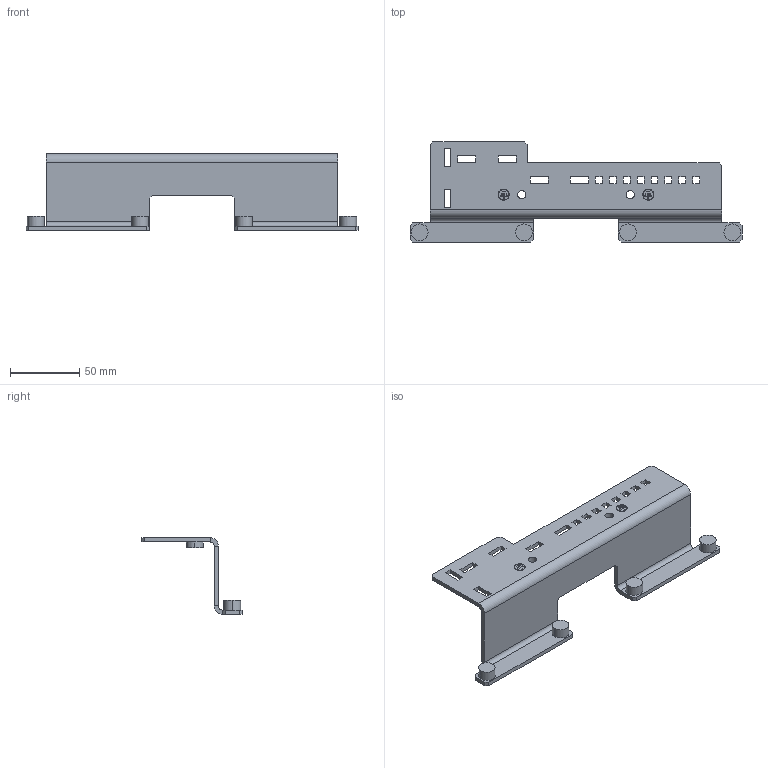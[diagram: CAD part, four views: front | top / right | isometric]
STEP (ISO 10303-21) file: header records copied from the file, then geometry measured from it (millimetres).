
FILE_DESCRIPTION (( 'STEP AP214' ), '1' );
FILE_NAME ('18_19P6 Schirmwinkel.STEP', '2020-09-25T09:29:59', ( '' ), ( '' ), 'SwSTEP 2.0', 'SolidWorks 2019', '' );
FILE_SCHEMA (( 'AUTOMOTIVE_DESIGN' ));
Length unit declared in the file: millimetre
Products named in the file (2): 18_19P6 Schirmwinkel; 10061951_000
Assembly tree (1 placements, depth 2):
  18_19P6 Schirmwinkel
    10061951_000
Bounding box: 239 x 72 x 55 mm (x, y, z)
Volume: 65244.8 mm3; surface area: 46021.8 mm2
Topology: 1 solids, 1 shells, 173 faces, 449 edges, 294 vertices
Faces by surface type: plane 143, cylinder 30
Entity records: 5345 total; most frequent: CARTESIAN_POINT 920, ORIENTED_EDGE 898, DIRECTION 863, EDGE_CURVE 449, VECTOR 389, LINE 389, VERTEX_POINT 294, AXIS2_PLACEMENT_3D 237
